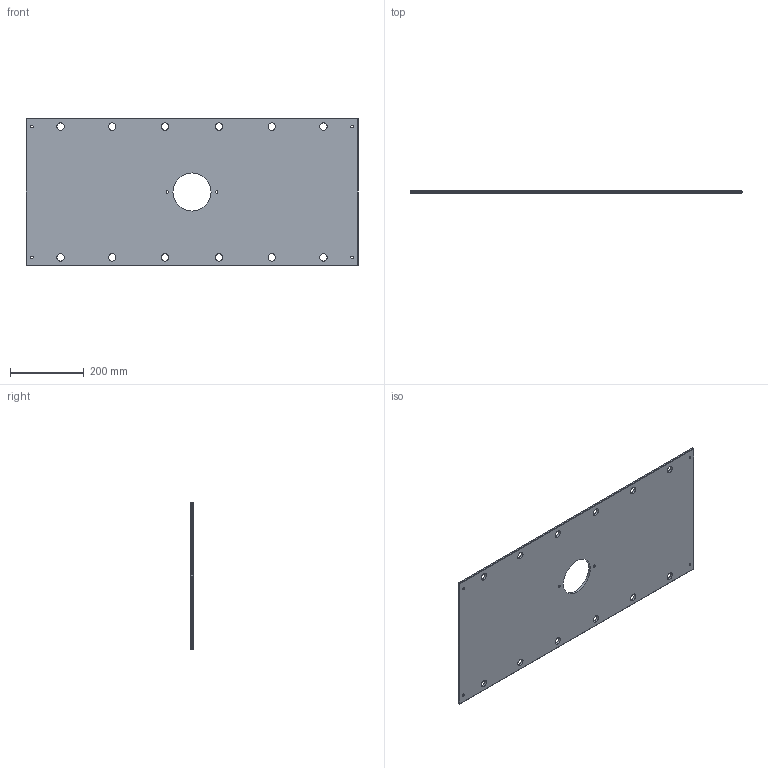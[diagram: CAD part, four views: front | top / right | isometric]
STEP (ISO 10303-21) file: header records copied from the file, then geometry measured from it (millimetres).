
FILE_DESCRIPTION (( 'STEP AP214' ), '1' );
FILE_NAME ('ME-0619-CH-1635.STEP', '2020-02-11T17:12:02', ( '' ), ( '' ), 'SwSTEP 2.0', 'SolidWorks 2018', '' );
FILE_SCHEMA (( 'AUTOMOTIVE_DESIGN' ));
Length unit declared in the file: inch
Products named in the file (1): ME-0619-CH-1635
Bounding box: 898.52 x 6.35 x 400.05 mm (x, y, z)
Volume: 2198951.3 mm3; surface area: 714412.5 mm2
Topology: 1 solids, 1 shells, 76 faces, 186 edges, 112 vertices
Faces by surface type: cylinder 38, plane 26, cone 12
Entity records: 2346 total; most frequent: DIRECTION 428, CARTESIAN_POINT 375, ORIENTED_EDGE 372, EDGE_CURVE 186, AXIS2_PLACEMENT_3D 165, EDGE_LOOP 114, VERTEX_POINT 112, LINE 98
